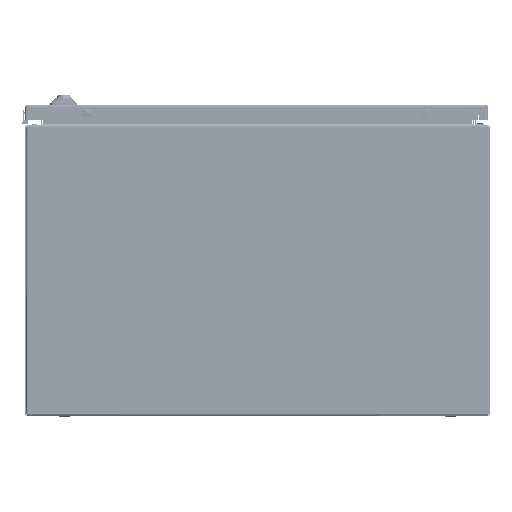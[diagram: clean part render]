
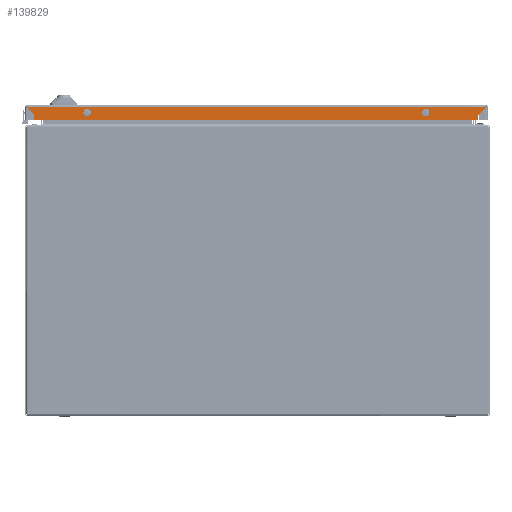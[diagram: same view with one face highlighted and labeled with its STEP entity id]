
A CAD part, front view. The second image highlights one B-rep face of the part: STEP entity #139829.
In plain terms, the highlighted planar face has unit normal (0, -1, 0).
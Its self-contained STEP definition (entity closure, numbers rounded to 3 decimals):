
#1339 = ORIENTED_EDGE ( 'NONE', *, *, #144155, .T. ) ;
#1434 = VECTOR ( 'NONE', #223145, 1000. ) ;
#11250 = VECTOR ( 'NONE', #163841, 1000. ) ;
#12985 = ORIENTED_EDGE ( 'NONE', *, *, #129705, .T. ) ;
#13474 = EDGE_CURVE ( 'NONE', #100757, #97838, #54475, .T. ) ;
#16500 = VERTEX_POINT ( 'NONE', #267644 ) ;
#18443 = DIRECTION ( 'NONE',  ( -0.707, 0., 0.707 ) ) ;
#19786 = VECTOR ( 'NONE', #18443, 1000. ) ;
#20624 = LINE ( 'NONE', #221411, #63598 ) ;
#22004 = CARTESIAN_POINT ( 'NONE',  ( -286.5, -498.5, 12. ) ) ;
#22129 = VERTEX_POINT ( 'NONE', #265715 ) ;
#22164 = EDGE_CURVE ( 'NONE', #97940, #16500, #83019, .T. ) ;
#22622 = ORIENTED_EDGE ( 'NONE', *, *, #22164, .T. ) ;
#26796 = VECTOR ( 'NONE', #202741, 1000. ) ;
#26975 = VERTEX_POINT ( 'NONE', #106040 ) ;
#27450 = EDGE_CURVE ( 'NONE', #22129, #47096, #236511, .T. ) ;
#34661 = ORIENTED_EDGE ( 'NONE', *, *, #143915, .F. ) ;
#40188 = CARTESIAN_POINT ( 'NONE',  ( 218.5, -498.5, 9.5 ) ) ;
#40646 = ORIENTED_EDGE ( 'NONE', *, *, #239557, .F. ) ;
#47096 = VERTEX_POINT ( 'NONE', #79993 ) ;
#49573 = EDGE_CURVE ( 'NONE', #216024, #47096, #20624, .T. ) ;
#49684 = CARTESIAN_POINT ( 'NONE',  ( 218.5, -498.5, 5.5 ) ) ;
#52415 = CARTESIAN_POINT ( 'NONE',  ( 286.5, -498.5, 18.5 ) ) ;
#53767 = CARTESIAN_POINT ( 'NONE',  ( -286.5, -498.5, 18.5 ) ) ;
#54318 = FACE_BOUND ( 'NONE', #263694, .T. ) ;
#54475 = CIRCLE ( 'NONE', #229471, 4. ) ;
#57732 = LINE ( 'NONE', #53767, #1434 ) ;
#59353 = AXIS2_PLACEMENT_3D ( 'NONE', #71438, #219504, #92705 ) ;
#59956 = CARTESIAN_POINT ( 'NONE',  ( 218.5, -498.5, 9.5 ) ) ;
#61471 = DIRECTION ( 'NONE',  ( 0., 0., 1. ) ) ;
#63598 = VECTOR ( 'NONE', #94612, 1000. ) ;
#71438 = CARTESIAN_POINT ( 'NONE',  ( -218.5, -498.5, 9.5 ) ) ;
#74771 = CARTESIAN_POINT ( 'NONE',  ( -218.5, -498.5, 5.5 ) ) ;
#76479 = EDGE_CURVE ( 'NONE', #143342, #97940, #103836, .T. ) ;
#79993 = CARTESIAN_POINT ( 'NONE',  ( -296.4, -498.5, 2.1 ) ) ;
#80483 = CARTESIAN_POINT ( 'NONE',  ( -218.5, -498.5, 9.5 ) ) ;
#81226 = DIRECTION ( 'NONE',  ( 0., 0., 1. ) ) ;
#83019 = LINE ( 'NONE', #138952, #26796 ) ;
#92705 = DIRECTION ( 'NONE',  ( 0., 0., -1. ) ) ;
#94612 = DIRECTION ( 'NONE',  ( -0.707, 0., -0.707 ) ) ;
#97838 = VERTEX_POINT ( 'NONE', #49684 ) ;
#97940 = VERTEX_POINT ( 'NONE', #52415 ) ;
#100740 = DIRECTION ( 'NONE',  ( 0., 0., 1. ) ) ;
#100757 = VERTEX_POINT ( 'NONE', #219891 ) ;
#101796 = DIRECTION ( 'NONE',  ( 0., 0., -1. ) ) ;
#103836 = LINE ( 'NONE', #270049, #266044 ) ;
#104084 = DIRECTION ( 'NONE',  ( 0., 0., 1. ) ) ;
#106040 = CARTESIAN_POINT ( 'NONE',  ( -218.5, -498.5, 13.5 ) ) ;
#117292 = FACE_BOUND ( 'NONE', #156475, .T. ) ;
#120390 = EDGE_LOOP ( 'NONE', ( #235038, #12985, #120519, #22622, #1339, #200921 ) ) ;
#120519 = ORIENTED_EDGE ( 'NONE', *, *, #76479, .T. ) ;
#121296 = CARTESIAN_POINT ( 'NONE',  ( 286.5, -498.5, 2.1 ) ) ;
#129705 = EDGE_CURVE ( 'NONE', #22129, #143342, #132396, .T. ) ;
#132396 = LINE ( 'NONE', #271974, #19786 ) ;
#138952 = CARTESIAN_POINT ( 'NONE',  ( -286.5, -498.5, 18.5 ) ) ;
#139829 = ADVANCED_FACE ( 'NONE', ( #117292, #54318, #166912 ), #209547, .F. ) ;
#143342 = VERTEX_POINT ( 'NONE', #225755 ) ;
#143915 = EDGE_CURVE ( 'NONE', #26975, #238001, #210113, .T. ) ;
#144155 = EDGE_CURVE ( 'NONE', #16500, #216024, #57732, .T. ) ;
#156475 = EDGE_LOOP ( 'NONE', ( #270823, #188411 ) ) ;
#163841 = DIRECTION ( 'NONE',  ( -1., 0., 0. ) ) ;
#166912 = FACE_OUTER_BOUND ( 'NONE', #120390, .T. ) ;
#186427 = DIRECTION ( 'NONE',  ( 0., 1., 0. ) ) ;
#188195 = DIRECTION ( 'NONE',  ( 0., -1., 0. ) ) ;
#188411 = ORIENTED_EDGE ( 'NONE', *, *, #13474, .F. ) ;
#200921 = ORIENTED_EDGE ( 'NONE', *, *, #49573, .T. ) ;
#201369 = AXIS2_PLACEMENT_3D ( 'NONE', #40188, #188195, #61471 ) ;
#202741 = DIRECTION ( 'NONE',  ( -1., 0., 0. ) ) ;
#207967 = DIRECTION ( 'NONE',  ( 0., -1., 0. ) ) ;
#209547 = PLANE ( 'NONE',  #253973 ) ;
#210113 = CIRCLE ( 'NONE', #59353, 4. ) ;
#216024 = VERTEX_POINT ( 'NONE', #22004 ) ;
#216901 = CIRCLE ( 'NONE', #201369, 4. ) ;
#219504 = DIRECTION ( 'NONE',  ( 0., -1., 0. ) ) ;
#219891 = CARTESIAN_POINT ( 'NONE',  ( 218.5, -498.5, 13.5 ) ) ;
#221411 = CARTESIAN_POINT ( 'NONE',  ( -286.5, -498.5, 12. ) ) ;
#223145 = DIRECTION ( 'NONE',  ( 0., 0., -1. ) ) ;
#225755 = CARTESIAN_POINT ( 'NONE',  ( 286.5, -498.5, 12. ) ) ;
#228335 = CIRCLE ( 'NONE', #241601, 4. ) ;
#228574 = DIRECTION ( 'NONE',  ( 0., -1., 0. ) ) ;
#229471 = AXIS2_PLACEMENT_3D ( 'NONE', #59956, #207967, #81226 ) ;
#230885 = CARTESIAN_POINT ( 'NONE',  ( 286.5, -498.5, 1.5 ) ) ;
#235038 = ORIENTED_EDGE ( 'NONE', *, *, #27450, .F. ) ;
#236511 = LINE ( 'NONE', #121296, #11250 ) ;
#238001 = VERTEX_POINT ( 'NONE', #74771 ) ;
#239557 = EDGE_CURVE ( 'NONE', #238001, #26975, #228335, .T. ) ;
#241601 = AXIS2_PLACEMENT_3D ( 'NONE', #80483, #228574, #101796 ) ;
#245499 = EDGE_CURVE ( 'NONE', #97838, #100757, #216901, .T. ) ;
#253973 = AXIS2_PLACEMENT_3D ( 'NONE', #230885, #186427, #104084 ) ;
#263694 = EDGE_LOOP ( 'NONE', ( #40646, #34661 ) ) ;
#265715 = CARTESIAN_POINT ( 'NONE',  ( 296.4, -498.5, 2.1 ) ) ;
#266044 = VECTOR ( 'NONE', #100740, 1000. ) ;
#267644 = CARTESIAN_POINT ( 'NONE',  ( -286.5, -498.5, 18.5 ) ) ;
#270049 = CARTESIAN_POINT ( 'NONE',  ( 286.5, -498.5, 18.5 ) ) ;
#270823 = ORIENTED_EDGE ( 'NONE', *, *, #245499, .F. ) ;
#271974 = CARTESIAN_POINT ( 'NONE',  ( 286.5, -498.5, 12. ) ) ;
